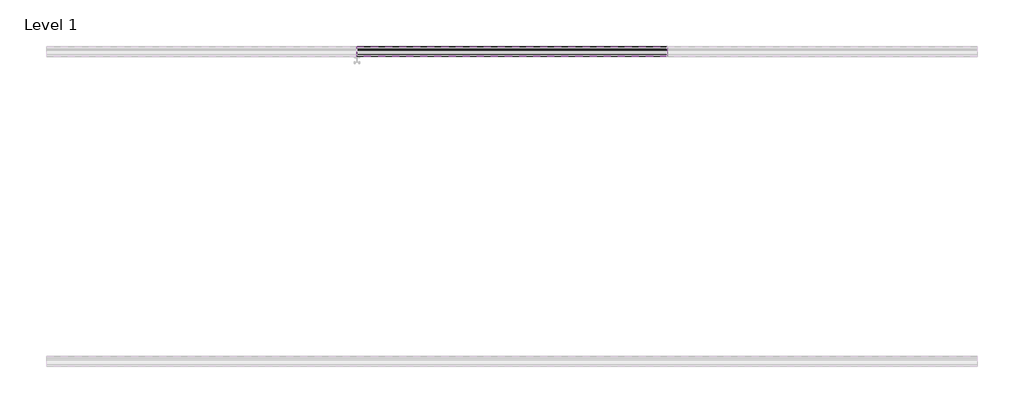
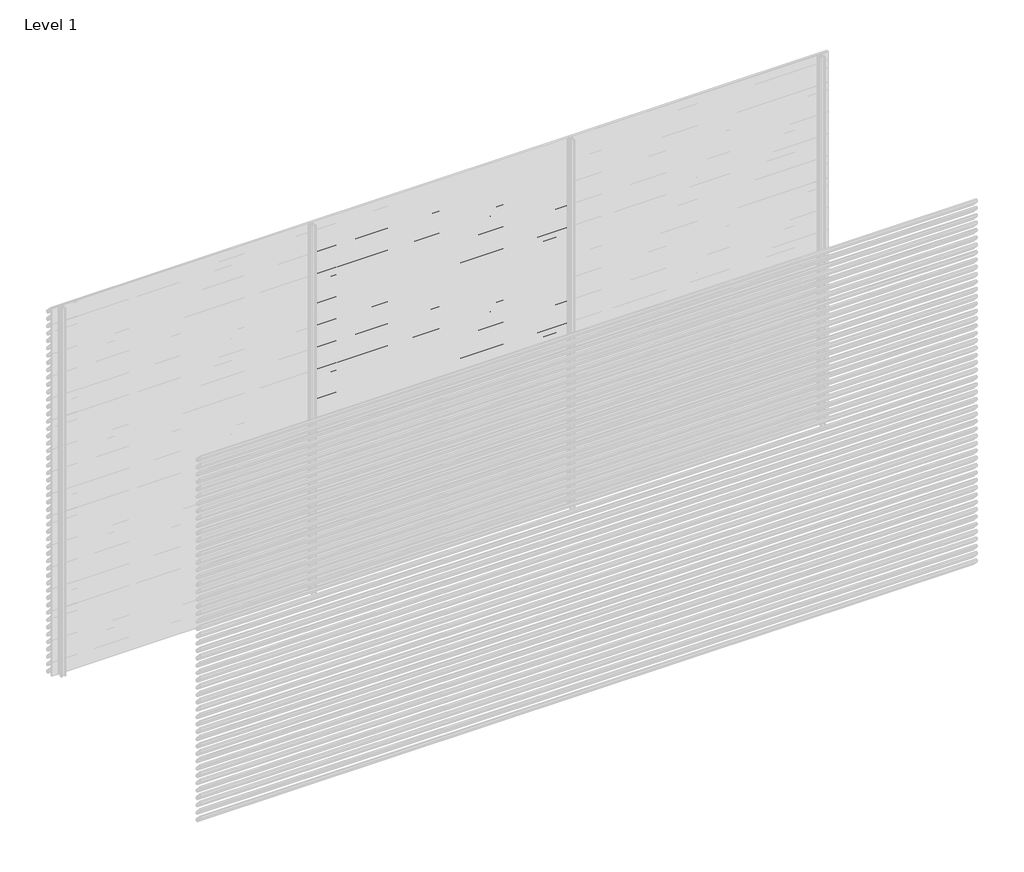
# One storey, part 52 of 153: 33 proxies.
"""IFC4 building model written with IfcOpenShell, lengths in millimetres."""

from ifc_helpers import new_model, si_unit, point, frame, frame_2d, origin, place, context, project, spatial, polyline, circle_curve, trimmed, segment, composite_curve, outline, extrude, element, save

model = new_model("IFC4")

# Units and contexts
model_context = context("Model", 3, world=origin())
ifc_project = project(units=[si_unit("LENGTHUNIT", "METRE", prefix="MILLI")], contexts=[model_context])

# Site, building, storey
site = spatial("IfcSite", under=ifc_project)
building = spatial("IfcBuilding", under=site)
storey = spatial("IfcBuildingStorey", under=building, Name="Level 1", Elevation=0.0)

# Proxies
placement = place(None, origin())
element("IfcBuildingElementProxy", 1, Name="Wall Sweeps", at=placement, inside=storey, context=model_context, shape_type="SweptSolid", body=[
    extrude(outline(composite_curve([segment(polyline([(21485.0540136, 2880.0), (21499.874191, 2878.7034025), (21549.0540136, 2825.0102749), (21549.0540136, 2813.6108187)]), True, "CONTINUOUS"), segment(trimmed(circle_curve(frame_2d((21545.7883652, 2813.897153)), 3.2781774), [point((21549.0540136, 2813.6108187))], [point((21546.4639442, 2810.6893438))], False, "CARTESIAN"), True, "CONTINUOUS"), segment(polyline([(21546.4639442, 2810.6893438), (21534.1895723, 2811.6282758), (21485.0540136, 2865.2730773), (21485.0540136, 2880.0)]), True, "CONTINUOUS")], self_intersect=False), holes=[composite_curve([segment(polyline([(21499.1621773, 2877.2599659), (21486.5540136, 2878.3630372), (21486.5540136, 2865.856213), (21534.8952036, 2813.0786805), (21546.3312542, 2812.2038762)]), True, "CONTINUOUS"), segment(trimmed(circle_curve(frame_2d((21545.7883652, 2813.897153)), 1.7781774), [point((21546.3312542, 2812.2038762))], [point((21547.5540136, 2813.6864389))], True, "CARTESIAN"), True, "CONTINUOUS"), segment(polyline([(21547.5540136, 2813.6864389), (21547.5540136, 2824.4271392), (21499.1621773, 2877.2599659)]), True, "CONTINUOUS")], self_intersect=False)]), frame((46966.6208098, 0.0, 0.0), z_axis=(1.0, 0.0, 0.0), x_axis=(0.0, 1.0, 0.0)), (0.0, 0.0, 1.0), 1999.9999998),
])
element("IfcBuildingElementProxy", 2, Name="Wall Sweeps", at=placement, inside=storey, context=model_context, shape_type="SweptSolid", body=[
    extrude(outline(composite_curve([segment(polyline([(21485.0540136, 2820.0), (21499.874191, 2818.7034025), (21549.0540136, 2765.0102749), (21549.0540136, 2753.6108187)]), True, "CONTINUOUS"), segment(trimmed(circle_curve(frame_2d((21545.7883652, 2753.897153)), 3.2781774), [point((21549.0540136, 2753.6108187))], [point((21546.4639442, 2750.6893438))], False, "CARTESIAN"), True, "CONTINUOUS"), segment(polyline([(21546.4639442, 2750.6893438), (21534.1895723, 2751.6282758), (21485.0540136, 2805.2730773), (21485.0540136, 2820.0)]), True, "CONTINUOUS")], self_intersect=False), holes=[composite_curve([segment(polyline([(21499.1621773, 2817.2599659), (21486.5540136, 2818.3630372), (21486.5540136, 2805.856213), (21534.8952036, 2753.0786805), (21546.3312542, 2752.2038762)]), True, "CONTINUOUS"), segment(trimmed(circle_curve(frame_2d((21545.7883652, 2753.897153)), 1.7781774), [point((21546.3312542, 2752.2038762))], [point((21547.5540136, 2753.6864389))], True, "CARTESIAN"), True, "CONTINUOUS"), segment(polyline([(21547.5540136, 2753.6864389), (21547.5540136, 2764.4271392), (21499.1621773, 2817.2599659)]), True, "CONTINUOUS")], self_intersect=False)]), frame((46966.6208098, 0.0, 0.0), z_axis=(1.0, 0.0, 0.0), x_axis=(0.0, 1.0, 0.0)), (0.0, 0.0, 1.0), 1999.9999998),
])
element("IfcBuildingElementProxy", 3, Name="Wall Sweeps", at=placement, inside=storey, context=model_context, shape_type="SweptSolid", body=[
    extrude(outline(composite_curve([segment(polyline([(21485.0540136, 2760.0), (21499.874191, 2758.7034025), (21549.0540136, 2705.0102749), (21549.0540136, 2693.6108187)]), True, "CONTINUOUS"), segment(trimmed(circle_curve(frame_2d((21545.7883652, 2693.897153)), 3.2781774), [point((21549.0540136, 2693.6108187))], [point((21546.4639442, 2690.6893438))], False, "CARTESIAN"), True, "CONTINUOUS"), segment(polyline([(21546.4639442, 2690.6893438), (21534.1895723, 2691.6282758), (21485.0540136, 2745.2730773), (21485.0540136, 2760.0)]), True, "CONTINUOUS")], self_intersect=False), holes=[composite_curve([segment(polyline([(21499.1621773, 2757.2599659), (21486.5540136, 2758.3630372), (21486.5540136, 2745.856213), (21534.8952036, 2693.0786805), (21546.3312542, 2692.2038762)]), True, "CONTINUOUS"), segment(trimmed(circle_curve(frame_2d((21545.7883652, 2693.897153)), 1.7781774), [point((21546.3312542, 2692.2038762))], [point((21547.5540136, 2693.6864389))], True, "CARTESIAN"), True, "CONTINUOUS"), segment(polyline([(21547.5540136, 2693.6864389), (21547.5540136, 2704.4271392), (21499.1621773, 2757.2599659)]), True, "CONTINUOUS")], self_intersect=False)]), frame((46966.6208098, 0.0, 0.0), z_axis=(1.0, 0.0, 0.0), x_axis=(0.0, 1.0, 0.0)), (0.0, 0.0, 1.0), 1999.9999998),
])
element("IfcBuildingElementProxy", 4, Name="Wall Sweeps", at=placement, inside=storey, context=model_context, shape_type="SweptSolid", body=[
    extrude(outline(composite_curve([segment(polyline([(21485.0540136, 2700.0), (21499.874191, 2698.7034025), (21549.0540136, 2645.0102749), (21549.0540136, 2633.6108187)]), True, "CONTINUOUS"), segment(trimmed(circle_curve(frame_2d((21545.7883652, 2633.897153)), 3.2781774), [point((21549.0540136, 2633.6108187))], [point((21546.4639442, 2630.6893438))], False, "CARTESIAN"), True, "CONTINUOUS"), segment(polyline([(21546.4639442, 2630.6893438), (21534.1895723, 2631.6282758), (21485.0540136, 2685.2730773), (21485.0540136, 2700.0)]), True, "CONTINUOUS")], self_intersect=False), holes=[composite_curve([segment(polyline([(21499.1621773, 2697.2599659), (21486.5540136, 2698.3630372), (21486.5540136, 2685.856213), (21534.8952036, 2633.0786805), (21546.3312542, 2632.2038762)]), True, "CONTINUOUS"), segment(trimmed(circle_curve(frame_2d((21545.7883652, 2633.897153)), 1.7781774), [point((21546.3312542, 2632.2038762))], [point((21547.5540136, 2633.6864389))], True, "CARTESIAN"), True, "CONTINUOUS"), segment(polyline([(21547.5540136, 2633.6864389), (21547.5540136, 2644.4271392), (21499.1621773, 2697.2599659)]), True, "CONTINUOUS")], self_intersect=False)]), frame((46966.6208098, 0.0, 0.0), z_axis=(1.0, 0.0, 0.0), x_axis=(0.0, 1.0, 0.0)), (0.0, 0.0, 1.0), 1999.9999998),
])
element("IfcBuildingElementProxy", 5, Name="Wall Sweeps", at=placement, inside=storey, context=model_context, shape_type="SweptSolid", body=[
    extrude(outline(composite_curve([segment(polyline([(21485.0540136, 2640.0), (21499.874191, 2638.7034025), (21549.0540136, 2585.0102749), (21549.0540136, 2573.6108187)]), True, "CONTINUOUS"), segment(trimmed(circle_curve(frame_2d((21545.7883652, 2573.897153)), 3.2781774), [point((21549.0540136, 2573.6108187))], [point((21546.4639442, 2570.6893438))], False, "CARTESIAN"), True, "CONTINUOUS"), segment(polyline([(21546.4639442, 2570.6893438), (21534.1895723, 2571.6282758), (21485.0540136, 2625.2730773), (21485.0540136, 2640.0)]), True, "CONTINUOUS")], self_intersect=False), holes=[composite_curve([segment(polyline([(21499.1621773, 2637.2599659), (21486.5540136, 2638.3630372), (21486.5540136, 2625.856213), (21534.8952036, 2573.0786805), (21546.3312542, 2572.2038762)]), True, "CONTINUOUS"), segment(trimmed(circle_curve(frame_2d((21545.7883652, 2573.897153)), 1.7781774), [point((21546.3312542, 2572.2038762))], [point((21547.5540136, 2573.6864389))], True, "CARTESIAN"), True, "CONTINUOUS"), segment(polyline([(21547.5540136, 2573.6864389), (21547.5540136, 2584.4271392), (21499.1621773, 2637.2599659)]), True, "CONTINUOUS")], self_intersect=False)]), frame((46966.6208098, 0.0, 0.0), z_axis=(1.0, 0.0, 0.0), x_axis=(0.0, 1.0, 0.0)), (0.0, 0.0, 1.0), 1999.9999998),
])
element("IfcBuildingElementProxy", 6, Name="Wall Sweeps", at=placement, inside=storey, context=model_context, shape_type="SweptSolid", body=[
    extrude(outline(composite_curve([segment(polyline([(21485.0540136, 2580.0), (21499.874191, 2578.7034025), (21549.0540136, 2525.0102749), (21549.0540136, 2513.6108187)]), True, "CONTINUOUS"), segment(trimmed(circle_curve(frame_2d((21545.7883652, 2513.897153)), 3.2781774), [point((21549.0540136, 2513.6108187))], [point((21546.4639442, 2510.6893438))], False, "CARTESIAN"), True, "CONTINUOUS"), segment(polyline([(21546.4639442, 2510.6893438), (21534.1895723, 2511.6282758), (21485.0540136, 2565.2730773), (21485.0540136, 2580.0)]), True, "CONTINUOUS")], self_intersect=False), holes=[composite_curve([segment(polyline([(21499.1621773, 2577.2599659), (21486.5540136, 2578.3630372), (21486.5540136, 2565.856213), (21534.8952036, 2513.0786805), (21546.3312542, 2512.2038762)]), True, "CONTINUOUS"), segment(trimmed(circle_curve(frame_2d((21545.7883652, 2513.897153)), 1.7781774), [point((21546.3312542, 2512.2038762))], [point((21547.5540136, 2513.6864389))], True, "CARTESIAN"), True, "CONTINUOUS"), segment(polyline([(21547.5540136, 2513.6864389), (21547.5540136, 2524.4271392), (21499.1621773, 2577.2599659)]), True, "CONTINUOUS")], self_intersect=False)]), frame((46966.6208098, 0.0, 0.0), z_axis=(1.0, 0.0, 0.0), x_axis=(0.0, 1.0, 0.0)), (0.0, 0.0, 1.0), 1999.9999998),
])
element("IfcBuildingElementProxy", 7, Name="Wall Sweeps", at=placement, inside=storey, context=model_context, shape_type="SweptSolid", body=[
    extrude(outline(composite_curve([segment(polyline([(21485.0540136, 2520.0), (21499.874191, 2518.7034025), (21549.0540136, 2465.0102749), (21549.0540136, 2453.6108187)]), True, "CONTINUOUS"), segment(trimmed(circle_curve(frame_2d((21545.7883652, 2453.897153)), 3.2781774), [point((21549.0540136, 2453.6108187))], [point((21546.4639442, 2450.6893438))], False, "CARTESIAN"), True, "CONTINUOUS"), segment(polyline([(21546.4639442, 2450.6893438), (21534.1895723, 2451.6282758), (21485.0540136, 2505.2730773), (21485.0540136, 2520.0)]), True, "CONTINUOUS")], self_intersect=False), holes=[composite_curve([segment(polyline([(21499.1621773, 2517.2599659), (21486.5540136, 2518.3630372), (21486.5540136, 2505.856213), (21534.8952036, 2453.0786805), (21546.3312542, 2452.2038762)]), True, "CONTINUOUS"), segment(trimmed(circle_curve(frame_2d((21545.7883652, 2453.897153)), 1.7781774), [point((21546.3312542, 2452.2038762))], [point((21547.5540136, 2453.6864389))], True, "CARTESIAN"), True, "CONTINUOUS"), segment(polyline([(21547.5540136, 2453.6864389), (21547.5540136, 2464.4271392), (21499.1621773, 2517.2599659)]), True, "CONTINUOUS")], self_intersect=False)]), frame((46966.6208098, 0.0, 0.0), z_axis=(1.0, 0.0, 0.0), x_axis=(0.0, 1.0, 0.0)), (0.0, 0.0, 1.0), 1999.9999998),
])
element("IfcBuildingElementProxy", 8, Name="Wall Sweeps", at=placement, inside=storey, context=model_context, shape_type="SweptSolid", body=[
    extrude(outline(composite_curve([segment(polyline([(21485.0540136, 2460.0), (21499.874191, 2458.7034025), (21549.0540136, 2405.0102749), (21549.0540136, 2393.6108187)]), True, "CONTINUOUS"), segment(trimmed(circle_curve(frame_2d((21545.7883652, 2393.897153)), 3.2781774), [point((21549.0540136, 2393.6108187))], [point((21546.4639442, 2390.6893438))], False, "CARTESIAN"), True, "CONTINUOUS"), segment(polyline([(21546.4639442, 2390.6893438), (21534.1895723, 2391.6282758), (21485.0540136, 2445.2730773), (21485.0540136, 2460.0)]), True, "CONTINUOUS")], self_intersect=False), holes=[composite_curve([segment(polyline([(21499.1621773, 2457.2599659), (21486.5540136, 2458.3630372), (21486.5540136, 2445.856213), (21534.8952036, 2393.0786805), (21546.3312542, 2392.2038762)]), True, "CONTINUOUS"), segment(trimmed(circle_curve(frame_2d((21545.7883652, 2393.897153)), 1.7781774), [point((21546.3312542, 2392.2038762))], [point((21547.5540136, 2393.6864389))], True, "CARTESIAN"), True, "CONTINUOUS"), segment(polyline([(21547.5540136, 2393.6864389), (21547.5540136, 2404.4271392), (21499.1621773, 2457.2599659)]), True, "CONTINUOUS")], self_intersect=False)]), frame((46966.6208098, 0.0, 0.0), z_axis=(1.0, 0.0, 0.0), x_axis=(0.0, 1.0, 0.0)), (0.0, 0.0, 1.0), 1999.9999998),
])
element("IfcBuildingElementProxy", 9, Name="Wall Sweeps", at=placement, inside=storey, context=model_context, shape_type="SweptSolid", body=[
    extrude(outline(composite_curve([segment(polyline([(21485.0540136, 2400.0), (21499.874191, 2398.7034025), (21549.0540136, 2345.0102749), (21549.0540136, 2333.6108187)]), True, "CONTINUOUS"), segment(trimmed(circle_curve(frame_2d((21545.7883652, 2333.897153)), 3.2781774), [point((21549.0540136, 2333.6108187))], [point((21546.4639442, 2330.6893438))], False, "CARTESIAN"), True, "CONTINUOUS"), segment(polyline([(21546.4639442, 2330.6893438), (21534.1895723, 2331.6282758), (21485.0540136, 2385.2730773), (21485.0540136, 2400.0)]), True, "CONTINUOUS")], self_intersect=False), holes=[composite_curve([segment(polyline([(21499.1621773, 2397.2599659), (21486.5540136, 2398.3630372), (21486.5540136, 2385.856213), (21534.8952036, 2333.0786805), (21546.3312542, 2332.2038762)]), True, "CONTINUOUS"), segment(trimmed(circle_curve(frame_2d((21545.7883652, 2333.897153)), 1.7781774), [point((21546.3312542, 2332.2038762))], [point((21547.5540136, 2333.6864389))], True, "CARTESIAN"), True, "CONTINUOUS"), segment(polyline([(21547.5540136, 2333.6864389), (21547.5540136, 2344.4271392), (21499.1621773, 2397.2599659)]), True, "CONTINUOUS")], self_intersect=False)]), frame((46966.6208098, 0.0, 0.0), z_axis=(1.0, 0.0, 0.0), x_axis=(0.0, 1.0, 0.0)), (0.0, 0.0, 1.0), 1999.9999998),
])
element("IfcBuildingElementProxy", 10, Name="Wall Sweeps", at=placement, inside=storey, context=model_context, shape_type="SweptSolid", body=[
    extrude(outline(composite_curve([segment(polyline([(21485.0540136, 2340.0), (21499.874191, 2338.7034025), (21549.0540136, 2285.0102749), (21549.0540136, 2273.6108187)]), True, "CONTINUOUS"), segment(trimmed(circle_curve(frame_2d((21545.7883652, 2273.897153)), 3.2781774), [point((21549.0540136, 2273.6108187))], [point((21546.4639442, 2270.6893438))], False, "CARTESIAN"), True, "CONTINUOUS"), segment(polyline([(21546.4639442, 2270.6893438), (21534.1895723, 2271.6282758), (21485.0540136, 2325.2730773), (21485.0540136, 2340.0)]), True, "CONTINUOUS")], self_intersect=False), holes=[composite_curve([segment(polyline([(21499.1621773, 2337.2599659), (21486.5540136, 2338.3630372), (21486.5540136, 2325.856213), (21534.8952036, 2273.0786805), (21546.3312542, 2272.2038762)]), True, "CONTINUOUS"), segment(trimmed(circle_curve(frame_2d((21545.7883652, 2273.897153)), 1.7781774), [point((21546.3312542, 2272.2038762))], [point((21547.5540136, 2273.6864389))], True, "CARTESIAN"), True, "CONTINUOUS"), segment(polyline([(21547.5540136, 2273.6864389), (21547.5540136, 2284.4271392), (21499.1621773, 2337.2599659)]), True, "CONTINUOUS")], self_intersect=False)]), frame((46966.6208098, 0.0, 0.0), z_axis=(1.0, 0.0, 0.0), x_axis=(0.0, 1.0, 0.0)), (0.0, 0.0, 1.0), 1999.9999998),
])
element("IfcBuildingElementProxy", 11, Name="Wall Sweeps", at=placement, inside=storey, context=model_context, shape_type="SweptSolid", body=[
    extrude(outline(composite_curve([segment(polyline([(21485.0540136, 2280.0), (21499.874191, 2278.7034025), (21549.0540136, 2225.0102749), (21549.0540136, 2213.6108187)]), True, "CONTINUOUS"), segment(trimmed(circle_curve(frame_2d((21545.7883652, 2213.897153)), 3.2781774), [point((21549.0540136, 2213.6108187))], [point((21546.4639442, 2210.6893438))], False, "CARTESIAN"), True, "CONTINUOUS"), segment(polyline([(21546.4639442, 2210.6893438), (21534.1895723, 2211.6282758), (21485.0540136, 2265.2730773), (21485.0540136, 2280.0)]), True, "CONTINUOUS")], self_intersect=False), holes=[composite_curve([segment(polyline([(21499.1621773, 2277.2599659), (21486.5540136, 2278.3630372), (21486.5540136, 2265.856213), (21534.8952036, 2213.0786805), (21546.3312542, 2212.2038762)]), True, "CONTINUOUS"), segment(trimmed(circle_curve(frame_2d((21545.7883652, 2213.897153)), 1.7781774), [point((21546.3312542, 2212.2038762))], [point((21547.5540136, 2213.6864389))], True, "CARTESIAN"), True, "CONTINUOUS"), segment(polyline([(21547.5540136, 2213.6864389), (21547.5540136, 2224.4271392), (21499.1621773, 2277.2599659)]), True, "CONTINUOUS")], self_intersect=False)]), frame((46966.6208098, 0.0, 0.0), z_axis=(1.0, 0.0, 0.0), x_axis=(0.0, 1.0, 0.0)), (0.0, 0.0, 1.0), 1999.9999998),
])
element("IfcBuildingElementProxy", 12, Name="Wall Sweeps", at=placement, inside=storey, context=model_context, shape_type="SweptSolid", body=[
    extrude(outline(composite_curve([segment(polyline([(21485.0540136, 2220.0), (21499.874191, 2218.7034025), (21549.0540136, 2165.0102749), (21549.0540136, 2153.6108187)]), True, "CONTINUOUS"), segment(trimmed(circle_curve(frame_2d((21545.7883652, 2153.897153)), 3.2781774), [point((21549.0540136, 2153.6108187))], [point((21546.4639442, 2150.6893438))], False, "CARTESIAN"), True, "CONTINUOUS"), segment(polyline([(21546.4639442, 2150.6893438), (21534.1895723, 2151.6282758), (21485.0540136, 2205.2730773), (21485.0540136, 2220.0)]), True, "CONTINUOUS")], self_intersect=False), holes=[composite_curve([segment(polyline([(21499.1621773, 2217.2599659), (21486.5540136, 2218.3630372), (21486.5540136, 2205.856213), (21534.8952036, 2153.0786805), (21546.3312542, 2152.2038762)]), True, "CONTINUOUS"), segment(trimmed(circle_curve(frame_2d((21545.7883652, 2153.897153)), 1.7781774), [point((21546.3312542, 2152.2038762))], [point((21547.5540136, 2153.6864389))], True, "CARTESIAN"), True, "CONTINUOUS"), segment(polyline([(21547.5540136, 2153.6864389), (21547.5540136, 2164.4271392), (21499.1621773, 2217.2599659)]), True, "CONTINUOUS")], self_intersect=False)]), frame((46966.6208098, 0.0, 0.0), z_axis=(1.0, 0.0, 0.0), x_axis=(0.0, 1.0, 0.0)), (0.0, 0.0, 1.0), 1999.9999998),
])
element("IfcBuildingElementProxy", 13, Name="Wall Sweeps", at=placement, inside=storey, context=model_context, shape_type="SweptSolid", body=[
    extrude(outline(composite_curve([segment(polyline([(21485.0540136, 2160.0), (21499.874191, 2158.7034025), (21549.0540136, 2105.0102749), (21549.0540136, 2093.6108187)]), True, "CONTINUOUS"), segment(trimmed(circle_curve(frame_2d((21545.7883652, 2093.897153)), 3.2781774), [point((21549.0540136, 2093.6108187))], [point((21546.4639442, 2090.6893438))], False, "CARTESIAN"), True, "CONTINUOUS"), segment(polyline([(21546.4639442, 2090.6893438), (21534.1895723, 2091.6282758), (21485.0540136, 2145.2730773), (21485.0540136, 2160.0)]), True, "CONTINUOUS")], self_intersect=False), holes=[composite_curve([segment(polyline([(21499.1621773, 2157.2599659), (21486.5540136, 2158.3630372), (21486.5540136, 2145.856213), (21534.8952036, 2093.0786805), (21546.3312542, 2092.2038762)]), True, "CONTINUOUS"), segment(trimmed(circle_curve(frame_2d((21545.7883652, 2093.897153)), 1.7781774), [point((21546.3312542, 2092.2038762))], [point((21547.5540136, 2093.6864389))], True, "CARTESIAN"), True, "CONTINUOUS"), segment(polyline([(21547.5540136, 2093.6864389), (21547.5540136, 2104.4271392), (21499.1621773, 2157.2599659)]), True, "CONTINUOUS")], self_intersect=False)]), frame((46966.6208098, 0.0, 0.0), z_axis=(1.0, 0.0, 0.0), x_axis=(0.0, 1.0, 0.0)), (0.0, 0.0, 1.0), 1999.9999998),
])
element("IfcBuildingElementProxy", 14, Name="Wall Sweeps", at=placement, inside=storey, context=model_context, shape_type="SweptSolid", body=[
    extrude(outline(composite_curve([segment(polyline([(21485.0540136, 2100.0), (21499.874191, 2098.7034025), (21549.0540136, 2045.0102749), (21549.0540136, 2033.6108187)]), True, "CONTINUOUS"), segment(trimmed(circle_curve(frame_2d((21545.7883652, 2033.897153)), 3.2781774), [point((21549.0540136, 2033.6108187))], [point((21546.4639442, 2030.6893438))], False, "CARTESIAN"), True, "CONTINUOUS"), segment(polyline([(21546.4639442, 2030.6893438), (21534.1895723, 2031.6282758), (21485.0540136, 2085.2730773), (21485.0540136, 2100.0)]), True, "CONTINUOUS")], self_intersect=False), holes=[composite_curve([segment(polyline([(21499.1621773, 2097.2599659), (21486.5540136, 2098.3630372), (21486.5540136, 2085.856213), (21534.8952036, 2033.0786805), (21546.3312542, 2032.2038762)]), True, "CONTINUOUS"), segment(trimmed(circle_curve(frame_2d((21545.7883652, 2033.897153)), 1.7781774), [point((21546.3312542, 2032.2038762))], [point((21547.5540136, 2033.6864389))], True, "CARTESIAN"), True, "CONTINUOUS"), segment(polyline([(21547.5540136, 2033.6864389), (21547.5540136, 2044.4271392), (21499.1621773, 2097.2599659)]), True, "CONTINUOUS")], self_intersect=False)]), frame((46966.6208098, 0.0, 0.0), z_axis=(1.0, 0.0, 0.0), x_axis=(0.0, 1.0, 0.0)), (0.0, 0.0, 1.0), 1999.9999998),
])
element("IfcBuildingElementProxy", 15, Name="Wall Sweeps", at=placement, inside=storey, context=model_context, shape_type="SweptSolid", body=[
    extrude(outline(composite_curve([segment(polyline([(21485.0540136, 2040.0), (21499.874191, 2038.7034025), (21549.0540136, 1985.0102749), (21549.0540136, 1973.6108187)]), True, "CONTINUOUS"), segment(trimmed(circle_curve(frame_2d((21545.7883652, 1973.897153)), 3.2781774), [point((21549.0540136, 1973.6108187))], [point((21546.4639442, 1970.6893438))], False, "CARTESIAN"), True, "CONTINUOUS"), segment(polyline([(21546.4639442, 1970.6893438), (21534.1895723, 1971.6282758), (21485.0540136, 2025.2730773), (21485.0540136, 2040.0)]), True, "CONTINUOUS")], self_intersect=False), holes=[composite_curve([segment(polyline([(21499.1621773, 2037.2599659), (21486.5540136, 2038.3630372), (21486.5540136, 2025.856213), (21534.8952036, 1973.0786805), (21546.3312542, 1972.2038762)]), True, "CONTINUOUS"), segment(trimmed(circle_curve(frame_2d((21545.7883652, 1973.897153)), 1.7781774), [point((21546.3312542, 1972.2038762))], [point((21547.5540136, 1973.6864389))], True, "CARTESIAN"), True, "CONTINUOUS"), segment(polyline([(21547.5540136, 1973.6864389), (21547.5540136, 1984.4271392), (21499.1621773, 2037.2599659)]), True, "CONTINUOUS")], self_intersect=False)]), frame((46966.6208098, 0.0, 0.0), z_axis=(1.0, 0.0, 0.0), x_axis=(0.0, 1.0, 0.0)), (0.0, 0.0, 1.0), 1999.9999998),
])
element("IfcBuildingElementProxy", 16, Name="Wall Sweeps", at=placement, inside=storey, context=model_context, shape_type="SweptSolid", body=[
    extrude(outline(composite_curve([segment(polyline([(21485.0540136, 1980.0), (21499.874191, 1978.7034025), (21549.0540136, 1925.0102749), (21549.0540136, 1913.6108187)]), True, "CONTINUOUS"), segment(trimmed(circle_curve(frame_2d((21545.7883652, 1913.897153)), 3.2781774), [point((21549.0540136, 1913.6108187))], [point((21546.4639442, 1910.6893438))], False, "CARTESIAN"), True, "CONTINUOUS"), segment(polyline([(21546.4639442, 1910.6893438), (21534.1895723, 1911.6282758), (21485.0540136, 1965.2730773), (21485.0540136, 1980.0)]), True, "CONTINUOUS")], self_intersect=False), holes=[composite_curve([segment(polyline([(21499.1621773, 1977.2599659), (21486.5540136, 1978.3630372), (21486.5540136, 1965.856213), (21534.8952036, 1913.0786805), (21546.3312542, 1912.2038762)]), True, "CONTINUOUS"), segment(trimmed(circle_curve(frame_2d((21545.7883652, 1913.897153)), 1.7781774), [point((21546.3312542, 1912.2038762))], [point((21547.5540136, 1913.6864389))], True, "CARTESIAN"), True, "CONTINUOUS"), segment(polyline([(21547.5540136, 1913.6864389), (21547.5540136, 1924.4271392), (21499.1621773, 1977.2599659)]), True, "CONTINUOUS")], self_intersect=False)]), frame((46966.6208098, 0.0, 0.0), z_axis=(1.0, 0.0, 0.0), x_axis=(0.0, 1.0, 0.0)), (0.0, 0.0, 1.0), 1999.9999998),
])
element("IfcBuildingElementProxy", 17, Name="Wall Sweeps", at=placement, inside=storey, context=model_context, shape_type="SweptSolid", body=[
    extrude(outline(composite_curve([segment(polyline([(21485.0540136, 1920.0), (21499.874191, 1918.7034025), (21549.0540136, 1865.0102749), (21549.0540136, 1853.6108187)]), True, "CONTINUOUS"), segment(trimmed(circle_curve(frame_2d((21545.7883652, 1853.897153)), 3.2781774), [point((21549.0540136, 1853.6108187))], [point((21546.4639442, 1850.6893438))], False, "CARTESIAN"), True, "CONTINUOUS"), segment(polyline([(21546.4639442, 1850.6893438), (21534.1895723, 1851.6282758), (21485.0540136, 1905.2730773), (21485.0540136, 1920.0)]), True, "CONTINUOUS")], self_intersect=False), holes=[composite_curve([segment(polyline([(21499.1621773, 1917.2599659), (21486.5540136, 1918.3630372), (21486.5540136, 1905.856213), (21534.8952036, 1853.0786805), (21546.3312542, 1852.2038762)]), True, "CONTINUOUS"), segment(trimmed(circle_curve(frame_2d((21545.7883652, 1853.897153)), 1.7781774), [point((21546.3312542, 1852.2038762))], [point((21547.5540136, 1853.6864389))], True, "CARTESIAN"), True, "CONTINUOUS"), segment(polyline([(21547.5540136, 1853.6864389), (21547.5540136, 1864.4271392), (21499.1621773, 1917.2599659)]), True, "CONTINUOUS")], self_intersect=False)]), frame((46966.6208098, 0.0, 0.0), z_axis=(1.0, 0.0, 0.0), x_axis=(0.0, 1.0, 0.0)), (0.0, 0.0, 1.0), 1999.9999998),
])
element("IfcBuildingElementProxy", 18, Name="Wall Sweeps", at=placement, inside=storey, context=model_context, shape_type="SweptSolid", body=[
    extrude(outline(composite_curve([segment(polyline([(21485.0540136, 1860.0), (21499.874191, 1858.7034025), (21549.0540136, 1805.0102749), (21549.0540136, 1793.6108187)]), True, "CONTINUOUS"), segment(trimmed(circle_curve(frame_2d((21545.7883652, 1793.897153)), 3.2781774), [point((21549.0540136, 1793.6108187))], [point((21546.4639442, 1790.6893438))], False, "CARTESIAN"), True, "CONTINUOUS"), segment(polyline([(21546.4639442, 1790.6893438), (21534.1895723, 1791.6282758), (21485.0540136, 1845.2730773), (21485.0540136, 1860.0)]), True, "CONTINUOUS")], self_intersect=False), holes=[composite_curve([segment(polyline([(21499.1621773, 1857.2599659), (21486.5540136, 1858.3630372), (21486.5540136, 1845.856213), (21534.8952036, 1793.0786805), (21546.3312542, 1792.2038762)]), True, "CONTINUOUS"), segment(trimmed(circle_curve(frame_2d((21545.7883652, 1793.897153)), 1.7781774), [point((21546.3312542, 1792.2038762))], [point((21547.5540136, 1793.6864389))], True, "CARTESIAN"), True, "CONTINUOUS"), segment(polyline([(21547.5540136, 1793.6864389), (21547.5540136, 1804.4271392), (21499.1621773, 1857.2599659)]), True, "CONTINUOUS")], self_intersect=False)]), frame((46966.6208098, 0.0, 0.0), z_axis=(1.0, 0.0, 0.0), x_axis=(0.0, 1.0, 0.0)), (0.0, 0.0, 1.0), 1999.9999998),
])
element("IfcBuildingElementProxy", 19, Name="Wall Sweeps", at=placement, inside=storey, context=model_context, shape_type="SweptSolid", body=[
    extrude(outline(composite_curve([segment(polyline([(21485.0540136, 1800.0), (21499.874191, 1798.7034025), (21549.0540136, 1745.0102749), (21549.0540136, 1733.6108187)]), True, "CONTINUOUS"), segment(trimmed(circle_curve(frame_2d((21545.7883652, 1733.897153)), 3.2781774), [point((21549.0540136, 1733.6108187))], [point((21546.4639442, 1730.6893438))], False, "CARTESIAN"), True, "CONTINUOUS"), segment(polyline([(21546.4639442, 1730.6893438), (21534.1895723, 1731.6282758), (21485.0540136, 1785.2730773), (21485.0540136, 1800.0)]), True, "CONTINUOUS")], self_intersect=False), holes=[composite_curve([segment(polyline([(21499.1621773, 1797.2599659), (21486.5540136, 1798.3630372), (21486.5540136, 1785.856213), (21534.8952036, 1733.0786805), (21546.3312542, 1732.2038762)]), True, "CONTINUOUS"), segment(trimmed(circle_curve(frame_2d((21545.7883652, 1733.897153)), 1.7781774), [point((21546.3312542, 1732.2038762))], [point((21547.5540136, 1733.6864389))], True, "CARTESIAN"), True, "CONTINUOUS"), segment(polyline([(21547.5540136, 1733.6864389), (21547.5540136, 1744.4271392), (21499.1621773, 1797.2599659)]), True, "CONTINUOUS")], self_intersect=False)]), frame((46966.6208098, 0.0, 0.0), z_axis=(1.0, 0.0, 0.0), x_axis=(0.0, 1.0, 0.0)), (0.0, 0.0, 1.0), 1999.9999998),
])
element("IfcBuildingElementProxy", 20, Name="Wall Sweeps", at=placement, inside=storey, context=model_context, shape_type="SweptSolid", body=[
    extrude(outline(composite_curve([segment(polyline([(21485.0540136, 1740.0), (21499.874191, 1738.7034025), (21549.0540136, 1685.0102749), (21549.0540136, 1673.6108187)]), True, "CONTINUOUS"), segment(trimmed(circle_curve(frame_2d((21545.7883652, 1673.897153)), 3.2781774), [point((21549.0540136, 1673.6108187))], [point((21546.4639442, 1670.6893438))], False, "CARTESIAN"), True, "CONTINUOUS"), segment(polyline([(21546.4639442, 1670.6893438), (21534.1895723, 1671.6282758), (21485.0540136, 1725.2730773), (21485.0540136, 1740.0)]), True, "CONTINUOUS")], self_intersect=False), holes=[composite_curve([segment(polyline([(21499.1621773, 1737.2599659), (21486.5540136, 1738.3630372), (21486.5540136, 1725.856213), (21534.8952036, 1673.0786805), (21546.3312542, 1672.2038762)]), True, "CONTINUOUS"), segment(trimmed(circle_curve(frame_2d((21545.7883652, 1673.897153)), 1.7781774), [point((21546.3312542, 1672.2038762))], [point((21547.5540136, 1673.6864389))], True, "CARTESIAN"), True, "CONTINUOUS"), segment(polyline([(21547.5540136, 1673.6864389), (21547.5540136, 1684.4271392), (21499.1621773, 1737.2599659)]), True, "CONTINUOUS")], self_intersect=False)]), frame((46966.6208098, 0.0, 0.0), z_axis=(1.0, 0.0, 0.0), x_axis=(0.0, 1.0, 0.0)), (0.0, 0.0, 1.0), 1999.9999998),
])
element("IfcBuildingElementProxy", 21, Name="Wall Sweeps", at=placement, inside=storey, context=model_context, shape_type="SweptSolid", body=[
    extrude(outline(composite_curve([segment(polyline([(21485.0540136, 1680.0), (21499.874191, 1678.7034025), (21549.0540136, 1625.0102749), (21549.0540136, 1613.6108187)]), True, "CONTINUOUS"), segment(trimmed(circle_curve(frame_2d((21545.7883652, 1613.897153)), 3.2781774), [point((21549.0540136, 1613.6108187))], [point((21546.4639442, 1610.6893438))], False, "CARTESIAN"), True, "CONTINUOUS"), segment(polyline([(21546.4639442, 1610.6893438), (21534.1895723, 1611.6282758), (21485.0540136, 1665.2730773), (21485.0540136, 1680.0)]), True, "CONTINUOUS")], self_intersect=False), holes=[composite_curve([segment(polyline([(21499.1621773, 1677.2599659), (21486.5540136, 1678.3630372), (21486.5540136, 1665.856213), (21534.8952036, 1613.0786805), (21546.3312542, 1612.2038762)]), True, "CONTINUOUS"), segment(trimmed(circle_curve(frame_2d((21545.7883652, 1613.897153)), 1.7781774), [point((21546.3312542, 1612.2038762))], [point((21547.5540136, 1613.6864389))], True, "CARTESIAN"), True, "CONTINUOUS"), segment(polyline([(21547.5540136, 1613.6864389), (21547.5540136, 1624.4271392), (21499.1621773, 1677.2599659)]), True, "CONTINUOUS")], self_intersect=False)]), frame((46966.6208098, 0.0, 0.0), z_axis=(1.0, 0.0, 0.0), x_axis=(0.0, 1.0, 0.0)), (0.0, 0.0, 1.0), 1999.9999998),
])
element("IfcBuildingElementProxy", 22, Name="Wall Sweeps", at=placement, inside=storey, context=model_context, shape_type="SweptSolid", body=[
    extrude(outline(composite_curve([segment(polyline([(21485.0540136, 1620.0), (21499.874191, 1618.7034025), (21549.0540136, 1565.0102749), (21549.0540136, 1553.6108187)]), True, "CONTINUOUS"), segment(trimmed(circle_curve(frame_2d((21545.7883652, 1553.897153)), 3.2781774), [point((21549.0540136, 1553.6108187))], [point((21546.4639442, 1550.6893438))], False, "CARTESIAN"), True, "CONTINUOUS"), segment(polyline([(21546.4639442, 1550.6893438), (21534.1895723, 1551.6282758), (21485.0540136, 1605.2730773), (21485.0540136, 1620.0)]), True, "CONTINUOUS")], self_intersect=False), holes=[composite_curve([segment(polyline([(21499.1621773, 1617.2599659), (21486.5540136, 1618.3630372), (21486.5540136, 1605.856213), (21534.8952036, 1553.0786805), (21546.3312542, 1552.2038762)]), True, "CONTINUOUS"), segment(trimmed(circle_curve(frame_2d((21545.7883652, 1553.897153)), 1.7781774), [point((21546.3312542, 1552.2038762))], [point((21547.5540136, 1553.6864389))], True, "CARTESIAN"), True, "CONTINUOUS"), segment(polyline([(21547.5540136, 1553.6864389), (21547.5540136, 1564.4271392), (21499.1621773, 1617.2599659)]), True, "CONTINUOUS")], self_intersect=False)]), frame((46966.6208098, 0.0, 0.0), z_axis=(1.0, 0.0, 0.0), x_axis=(0.0, 1.0, 0.0)), (0.0, 0.0, 1.0), 1999.9999998),
])
element("IfcBuildingElementProxy", 23, Name="Wall Sweeps", at=placement, inside=storey, context=model_context, shape_type="SweptSolid", body=[
    extrude(outline(composite_curve([segment(polyline([(21485.0540136, 1560.0), (21499.874191, 1558.7034025), (21549.0540136, 1505.0102749), (21549.0540136, 1493.6108187)]), True, "CONTINUOUS"), segment(trimmed(circle_curve(frame_2d((21545.7883652, 1493.897153)), 3.2781774), [point((21549.0540136, 1493.6108187))], [point((21546.4639442, 1490.6893438))], False, "CARTESIAN"), True, "CONTINUOUS"), segment(polyline([(21546.4639442, 1490.6893438), (21534.1895723, 1491.6282758), (21485.0540136, 1545.2730773), (21485.0540136, 1560.0)]), True, "CONTINUOUS")], self_intersect=False), holes=[composite_curve([segment(polyline([(21499.1621773, 1557.2599659), (21486.5540136, 1558.3630372), (21486.5540136, 1545.856213), (21534.8952036, 1493.0786805), (21546.3312542, 1492.2038762)]), True, "CONTINUOUS"), segment(trimmed(circle_curve(frame_2d((21545.7883652, 1493.897153)), 1.7781774), [point((21546.3312542, 1492.2038762))], [point((21547.5540136, 1493.6864389))], True, "CARTESIAN"), True, "CONTINUOUS"), segment(polyline([(21547.5540136, 1493.6864389), (21547.5540136, 1504.4271392), (21499.1621773, 1557.2599659)]), True, "CONTINUOUS")], self_intersect=False)]), frame((46966.6208098, 0.0, 0.0), z_axis=(1.0, 0.0, 0.0), x_axis=(0.0, 1.0, 0.0)), (0.0, 0.0, 1.0), 1999.9999998),
])
element("IfcBuildingElementProxy", 24, Name="Wall Sweeps", at=placement, inside=storey, context=model_context, shape_type="SweptSolid", body=[
    extrude(outline(composite_curve([segment(polyline([(21485.0540136, 1500.0), (21499.874191, 1498.7034025), (21549.0540136, 1445.0102749), (21549.0540136, 1433.6108187)]), True, "CONTINUOUS"), segment(trimmed(circle_curve(frame_2d((21545.7883652, 1433.897153)), 3.2781774), [point((21549.0540136, 1433.6108187))], [point((21546.4639442, 1430.6893438))], False, "CARTESIAN"), True, "CONTINUOUS"), segment(polyline([(21546.4639442, 1430.6893438), (21534.1895723, 1431.6282758), (21485.0540136, 1485.2730773), (21485.0540136, 1500.0)]), True, "CONTINUOUS")], self_intersect=False), holes=[composite_curve([segment(polyline([(21499.1621773, 1497.2599659), (21486.5540136, 1498.3630372), (21486.5540136, 1485.856213), (21534.8952036, 1433.0786805), (21546.3312542, 1432.2038762)]), True, "CONTINUOUS"), segment(trimmed(circle_curve(frame_2d((21545.7883652, 1433.897153)), 1.7781774), [point((21546.3312542, 1432.2038762))], [point((21547.5540136, 1433.6864389))], True, "CARTESIAN"), True, "CONTINUOUS"), segment(polyline([(21547.5540136, 1433.6864389), (21547.5540136, 1444.4271392), (21499.1621773, 1497.2599659)]), True, "CONTINUOUS")], self_intersect=False)]), frame((46966.6208098, 0.0, 0.0), z_axis=(1.0, 0.0, 0.0), x_axis=(0.0, 1.0, 0.0)), (0.0, 0.0, 1.0), 1999.9999998),
])
element("IfcBuildingElementProxy", 25, Name="Wall Sweeps", at=placement, inside=storey, context=model_context, shape_type="SweptSolid", body=[
    extrude(outline(composite_curve([segment(polyline([(21485.0540136, 1440.0), (21499.874191, 1438.7034025), (21549.0540136, 1385.0102749), (21549.0540136, 1373.6108187)]), True, "CONTINUOUS"), segment(trimmed(circle_curve(frame_2d((21545.7883652, 1373.897153)), 3.2781774), [point((21549.0540136, 1373.6108187))], [point((21546.4639442, 1370.6893438))], False, "CARTESIAN"), True, "CONTINUOUS"), segment(polyline([(21546.4639442, 1370.6893438), (21534.1895723, 1371.6282758), (21485.0540136, 1425.2730773), (21485.0540136, 1440.0)]), True, "CONTINUOUS")], self_intersect=False), holes=[composite_curve([segment(polyline([(21499.1621773, 1437.2599659), (21486.5540136, 1438.3630372), (21486.5540136, 1425.856213), (21534.8952036, 1373.0786805), (21546.3312542, 1372.2038762)]), True, "CONTINUOUS"), segment(trimmed(circle_curve(frame_2d((21545.7883652, 1373.897153)), 1.7781774), [point((21546.3312542, 1372.2038762))], [point((21547.5540136, 1373.6864389))], True, "CARTESIAN"), True, "CONTINUOUS"), segment(polyline([(21547.5540136, 1373.6864389), (21547.5540136, 1384.4271392), (21499.1621773, 1437.2599659)]), True, "CONTINUOUS")], self_intersect=False)]), frame((46966.6208098, 0.0, 0.0), z_axis=(1.0, 0.0, 0.0), x_axis=(0.0, 1.0, 0.0)), (0.0, 0.0, 1.0), 1999.9999998),
])
element("IfcBuildingElementProxy", 26, Name="Wall Sweeps", at=placement, inside=storey, context=model_context, shape_type="SweptSolid", body=[
    extrude(outline(composite_curve([segment(polyline([(21485.0540136, 1380.0), (21499.874191, 1378.7034025), (21549.0540136, 1325.0102749), (21549.0540136, 1313.6108187)]), True, "CONTINUOUS"), segment(trimmed(circle_curve(frame_2d((21545.7883652, 1313.897153)), 3.2781774), [point((21549.0540136, 1313.6108187))], [point((21546.4639442, 1310.6893438))], False, "CARTESIAN"), True, "CONTINUOUS"), segment(polyline([(21546.4639442, 1310.6893438), (21534.1895723, 1311.6282758), (21485.0540136, 1365.2730773), (21485.0540136, 1380.0)]), True, "CONTINUOUS")], self_intersect=False), holes=[composite_curve([segment(polyline([(21499.1621773, 1377.2599659), (21486.5540136, 1378.3630372), (21486.5540136, 1365.856213), (21534.8952036, 1313.0786805), (21546.3312542, 1312.2038762)]), True, "CONTINUOUS"), segment(trimmed(circle_curve(frame_2d((21545.7883652, 1313.897153)), 1.7781774), [point((21546.3312542, 1312.2038762))], [point((21547.5540136, 1313.6864389))], True, "CARTESIAN"), True, "CONTINUOUS"), segment(polyline([(21547.5540136, 1313.6864389), (21547.5540136, 1324.4271392), (21499.1621773, 1377.2599659)]), True, "CONTINUOUS")], self_intersect=False)]), frame((46966.6208098, 0.0, 0.0), z_axis=(1.0, 0.0, 0.0), x_axis=(0.0, 1.0, 0.0)), (0.0, 0.0, 1.0), 1999.9999998),
])
element("IfcBuildingElementProxy", 27, Name="Wall Sweeps", at=placement, inside=storey, context=model_context, shape_type="SweptSolid", body=[
    extrude(outline(composite_curve([segment(polyline([(21485.0540136, 1320.0), (21499.874191, 1318.7034025), (21549.0540136, 1265.0102749), (21549.0540136, 1253.6108187)]), True, "CONTINUOUS"), segment(trimmed(circle_curve(frame_2d((21545.7883652, 1253.897153)), 3.2781774), [point((21549.0540136, 1253.6108187))], [point((21546.4639442, 1250.6893438))], False, "CARTESIAN"), True, "CONTINUOUS"), segment(polyline([(21546.4639442, 1250.6893438), (21534.1895723, 1251.6282758), (21485.0540136, 1305.2730773), (21485.0540136, 1320.0)]), True, "CONTINUOUS")], self_intersect=False), holes=[composite_curve([segment(polyline([(21499.1621773, 1317.2599659), (21486.5540136, 1318.3630372), (21486.5540136, 1305.856213), (21534.8952036, 1253.0786805), (21546.3312542, 1252.2038762)]), True, "CONTINUOUS"), segment(trimmed(circle_curve(frame_2d((21545.7883652, 1253.897153)), 1.7781774), [point((21546.3312542, 1252.2038762))], [point((21547.5540136, 1253.6864389))], True, "CARTESIAN"), True, "CONTINUOUS"), segment(polyline([(21547.5540136, 1253.6864389), (21547.5540136, 1264.4271392), (21499.1621773, 1317.2599659)]), True, "CONTINUOUS")], self_intersect=False)]), frame((46966.6208098, 0.0, 0.0), z_axis=(1.0, 0.0, 0.0), x_axis=(0.0, 1.0, 0.0)), (0.0, 0.0, 1.0), 1999.9999998),
])
element("IfcBuildingElementProxy", 28, Name="Wall Sweeps", at=placement, inside=storey, context=model_context, shape_type="SweptSolid", body=[
    extrude(outline(composite_curve([segment(polyline([(21485.0540136, 1260.0), (21499.874191, 1258.7034025), (21549.0540136, 1205.0102749), (21549.0540136, 1193.6108187)]), True, "CONTINUOUS"), segment(trimmed(circle_curve(frame_2d((21545.7883652, 1193.897153)), 3.2781774), [point((21549.0540136, 1193.6108187))], [point((21546.4639442, 1190.6893438))], False, "CARTESIAN"), True, "CONTINUOUS"), segment(polyline([(21546.4639442, 1190.6893438), (21534.1895723, 1191.6282758), (21485.0540136, 1245.2730773), (21485.0540136, 1260.0)]), True, "CONTINUOUS")], self_intersect=False), holes=[composite_curve([segment(polyline([(21499.1621773, 1257.2599659), (21486.5540136, 1258.3630372), (21486.5540136, 1245.856213), (21534.8952036, 1193.0786805), (21546.3312542, 1192.2038762)]), True, "CONTINUOUS"), segment(trimmed(circle_curve(frame_2d((21545.7883652, 1193.897153)), 1.7781774), [point((21546.3312542, 1192.2038762))], [point((21547.5540136, 1193.6864389))], True, "CARTESIAN"), True, "CONTINUOUS"), segment(polyline([(21547.5540136, 1193.6864389), (21547.5540136, 1204.4271392), (21499.1621773, 1257.2599659)]), True, "CONTINUOUS")], self_intersect=False)]), frame((46966.6208098, 0.0, 0.0), z_axis=(1.0, 0.0, 0.0), x_axis=(0.0, 1.0, 0.0)), (0.0, 0.0, 1.0), 1999.9999998),
])
element("IfcBuildingElementProxy", 29, Name="Wall Sweeps", at=placement, inside=storey, context=model_context, shape_type="SweptSolid", body=[
    extrude(outline(composite_curve([segment(polyline([(21485.0540136, 1200.0), (21499.874191, 1198.7034025), (21549.0540136, 1145.0102749), (21549.0540136, 1133.6108187)]), True, "CONTINUOUS"), segment(trimmed(circle_curve(frame_2d((21545.7883652, 1133.897153)), 3.2781774), [point((21549.0540136, 1133.6108187))], [point((21546.4639442, 1130.6893438))], False, "CARTESIAN"), True, "CONTINUOUS"), segment(polyline([(21546.4639442, 1130.6893438), (21534.1895723, 1131.6282758), (21485.0540136, 1185.2730773), (21485.0540136, 1200.0)]), True, "CONTINUOUS")], self_intersect=False), holes=[composite_curve([segment(polyline([(21499.1621773, 1197.2599659), (21486.5540136, 1198.3630372), (21486.5540136, 1185.856213), (21534.8952036, 1133.0786805), (21546.3312542, 1132.2038762)]), True, "CONTINUOUS"), segment(trimmed(circle_curve(frame_2d((21545.7883652, 1133.897153)), 1.7781774), [point((21546.3312542, 1132.2038762))], [point((21547.5540136, 1133.6864389))], True, "CARTESIAN"), True, "CONTINUOUS"), segment(polyline([(21547.5540136, 1133.6864389), (21547.5540136, 1144.4271392), (21499.1621773, 1197.2599659)]), True, "CONTINUOUS")], self_intersect=False)]), frame((46966.6208098, 0.0, 0.0), z_axis=(1.0, 0.0, 0.0), x_axis=(0.0, 1.0, 0.0)), (0.0, 0.0, 1.0), 1999.9999998),
])
element("IfcBuildingElementProxy", 30, Name="Wall Sweeps", at=placement, inside=storey, context=model_context, shape_type="SweptSolid", body=[
    extrude(outline(composite_curve([segment(polyline([(21485.0540136, 1140.0), (21499.874191, 1138.7034025), (21549.0540136, 1085.0102749), (21549.0540136, 1073.6108187)]), True, "CONTINUOUS"), segment(trimmed(circle_curve(frame_2d((21545.7883652, 1073.897153)), 3.2781774), [point((21549.0540136, 1073.6108187))], [point((21546.4639442, 1070.6893438))], False, "CARTESIAN"), True, "CONTINUOUS"), segment(polyline([(21546.4639442, 1070.6893438), (21534.1895723, 1071.6282758), (21485.0540136, 1125.2730773), (21485.0540136, 1140.0)]), True, "CONTINUOUS")], self_intersect=False), holes=[composite_curve([segment(polyline([(21499.1621773, 1137.2599659), (21486.5540136, 1138.3630372), (21486.5540136, 1125.856213), (21534.8952036, 1073.0786805), (21546.3312542, 1072.2038762)]), True, "CONTINUOUS"), segment(trimmed(circle_curve(frame_2d((21545.7883652, 1073.897153)), 1.7781774), [point((21546.3312542, 1072.2038762))], [point((21547.5540136, 1073.6864389))], True, "CARTESIAN"), True, "CONTINUOUS"), segment(polyline([(21547.5540136, 1073.6864389), (21547.5540136, 1084.4271392), (21499.1621773, 1137.2599659)]), True, "CONTINUOUS")], self_intersect=False)]), frame((46966.6208098, 0.0, 0.0), z_axis=(1.0, 0.0, 0.0), x_axis=(0.0, 1.0, 0.0)), (0.0, 0.0, 1.0), 1999.9999998),
])
element("IfcBuildingElementProxy", 31, Name="Wall Sweeps", at=placement, inside=storey, context=model_context, shape_type="SweptSolid", body=[
    extrude(outline(composite_curve([segment(polyline([(21485.0540136, 1080.0), (21499.874191, 1078.7034025), (21549.0540136, 1025.0102749), (21549.0540136, 1013.6108187)]), True, "CONTINUOUS"), segment(trimmed(circle_curve(frame_2d((21545.7883652, 1013.897153)), 3.2781774), [point((21549.0540136, 1013.6108187))], [point((21546.4639442, 1010.6893438))], False, "CARTESIAN"), True, "CONTINUOUS"), segment(polyline([(21546.4639442, 1010.6893438), (21534.1895723, 1011.6282758), (21485.0540136, 1065.2730773), (21485.0540136, 1080.0)]), True, "CONTINUOUS")], self_intersect=False), holes=[composite_curve([segment(polyline([(21499.1621773, 1077.2599659), (21486.5540136, 1078.3630372), (21486.5540136, 1065.856213), (21534.8952036, 1013.0786805), (21546.3312542, 1012.2038762)]), True, "CONTINUOUS"), segment(trimmed(circle_curve(frame_2d((21545.7883652, 1013.897153)), 1.7781774), [point((21546.3312542, 1012.2038762))], [point((21547.5540136, 1013.6864389))], True, "CARTESIAN"), True, "CONTINUOUS"), segment(polyline([(21547.5540136, 1013.6864389), (21547.5540136, 1024.4271392), (21499.1621773, 1077.2599659)]), True, "CONTINUOUS")], self_intersect=False)]), frame((46966.6208098, 0.0, 0.0), z_axis=(1.0, 0.0, 0.0), x_axis=(0.0, 1.0, 0.0)), (0.0, 0.0, 1.0), 1999.9999998),
])
element("IfcBuildingElementProxy", 32, Name="Wall Sweeps", at=placement, inside=storey, context=model_context, shape_type="SweptSolid", body=[
    extrude(outline(composite_curve([segment(polyline([(21485.0540136, 1020.0), (21499.874191, 1018.7034025), (21549.0540136, 965.0102749), (21549.0540136, 953.6108187)]), True, "CONTINUOUS"), segment(trimmed(circle_curve(frame_2d((21545.7883652, 953.897153)), 3.2781774), [point((21549.0540136, 953.6108187))], [point((21546.4639442, 950.6893438))], False, "CARTESIAN"), True, "CONTINUOUS"), segment(polyline([(21546.4639442, 950.6893438), (21534.1895723, 951.6282758), (21485.0540136, 1005.2730773), (21485.0540136, 1020.0)]), True, "CONTINUOUS")], self_intersect=False), holes=[composite_curve([segment(polyline([(21499.1621773, 1017.2599659), (21486.5540136, 1018.3630372), (21486.5540136, 1005.856213), (21534.8952036, 953.0786805), (21546.3312542, 952.2038762)]), True, "CONTINUOUS"), segment(trimmed(circle_curve(frame_2d((21545.7883652, 953.897153)), 1.7781774), [point((21546.3312542, 952.2038762))], [point((21547.5540136, 953.6864389))], True, "CARTESIAN"), True, "CONTINUOUS"), segment(polyline([(21547.5540136, 953.6864389), (21547.5540136, 964.4271392), (21499.1621773, 1017.2599659)]), True, "CONTINUOUS")], self_intersect=False)]), frame((46966.6208098, 0.0, 0.0), z_axis=(1.0, 0.0, 0.0), x_axis=(0.0, 1.0, 0.0)), (0.0, 0.0, 1.0), 1999.9999998),
])
element("IfcBuildingElementProxy", 33, Name="Wall Sweeps", at=placement, inside=storey, context=model_context, shape_type="SweptSolid", body=[
    extrude(outline(composite_curve([segment(polyline([(21485.0540136, 960.0), (21499.874191, 958.7034025), (21549.0540136, 905.0102749), (21549.0540136, 893.6108187)]), True, "CONTINUOUS"), segment(trimmed(circle_curve(frame_2d((21545.7883652, 893.897153)), 3.2781774), [point((21549.0540136, 893.6108187))], [point((21546.4639442, 890.6893438))], False, "CARTESIAN"), True, "CONTINUOUS"), segment(polyline([(21546.4639442, 890.6893438), (21534.1895723, 891.6282758), (21485.0540136, 945.2730773), (21485.0540136, 960.0)]), True, "CONTINUOUS")], self_intersect=False), holes=[composite_curve([segment(polyline([(21499.1621773, 957.2599659), (21486.5540136, 958.3630372), (21486.5540136, 945.856213), (21534.8952036, 893.0786805), (21546.3312542, 892.2038762)]), True, "CONTINUOUS"), segment(trimmed(circle_curve(frame_2d((21545.7883652, 893.897153)), 1.7781774), [point((21546.3312542, 892.2038762))], [point((21547.5540136, 893.6864389))], True, "CARTESIAN"), True, "CONTINUOUS"), segment(polyline([(21547.5540136, 893.6864389), (21547.5540136, 904.4271392), (21499.1621773, 957.2599659)]), True, "CONTINUOUS")], self_intersect=False)]), frame((46966.6208098, 0.0, 0.0), z_axis=(1.0, 0.0, 0.0), x_axis=(0.0, 1.0, 0.0)), (0.0, 0.0, 1.0), 1999.9999998),
])

save(model, "model.ifc")
